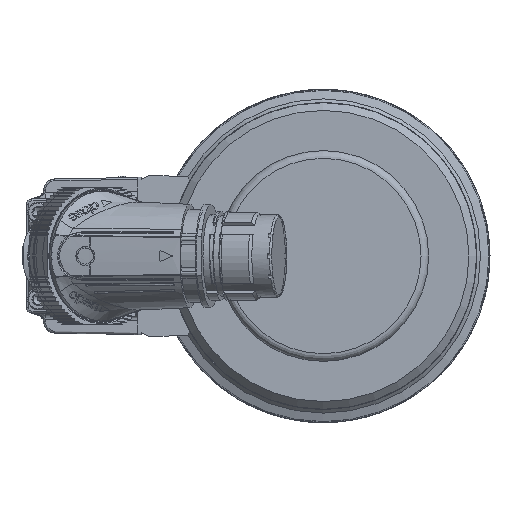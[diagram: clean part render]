
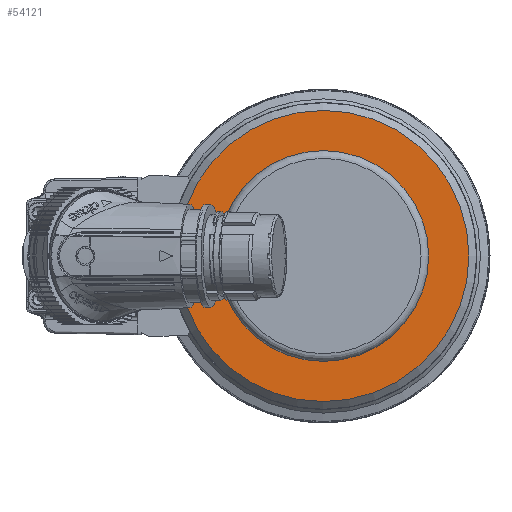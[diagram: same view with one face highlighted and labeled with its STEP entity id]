
A CAD part, left-side view. The second image highlights one B-rep face of the part: STEP entity #54121.
In plain terms, the highlighted planar face has unit normal (-1, 0, 0).
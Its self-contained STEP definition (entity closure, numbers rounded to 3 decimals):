
#3958 = AXIS2_PLACEMENT_3D ( 'NONE', #84605, #35686, #92772 ) ;
#8106 = FACE_OUTER_BOUND ( 'NONE', #93574, .T. ) ;
#8427 = PLANE ( 'NONE',  #35901 ) ;
#16367 = CARTESIAN_POINT ( 'NONE',  ( -392.7, 27.5, 0. ) ) ;
#16715 = DIRECTION ( 'NONE',  ( -1., 0., 0. ) ) ;
#18215 = DIRECTION ( 'NONE',  ( 1., 0., 0. ) ) ;
#35686 = DIRECTION ( 'NONE',  ( -1., 0., 0. ) ) ;
#35901 = AXIS2_PLACEMENT_3D ( 'NONE', #16367, #16715, #73495 ) ;
#42590 = CIRCLE ( 'NONE', #95311, 27.5 ) ;
#48763 = FACE_BOUND ( 'NONE', #86552, .T. ) ;
#54121 = ADVANCED_FACE ( 'NONE', ( #8106, #48763 ), #8427, .T. ) ;
#59415 = CARTESIAN_POINT ( 'NONE',  ( -392.7, 0., 37.999 ) ) ;
#66827 = CARTESIAN_POINT ( 'NONE',  ( -392.7, 0., 0. ) ) ;
#71927 = CARTESIAN_POINT ( 'NONE',  ( -392.7, 0., -27.5 ) ) ;
#73495 = DIRECTION ( 'NONE',  ( 0., 0., 1. ) ) ;
#74945 = DIRECTION ( 'NONE',  ( 0., 0., -1. ) ) ;
#79260 = EDGE_CURVE ( 'NONE', #93919, #93919, #42590, .T. ) ;
#80056 = CIRCLE ( 'NONE', #3958, 37.999 ) ;
#84605 = CARTESIAN_POINT ( 'NONE',  ( -392.7, 0., 0. ) ) ;
#86552 = EDGE_LOOP ( 'NONE', ( #97405 ) ) ;
#92772 = DIRECTION ( 'NONE',  ( 0., 0., 1. ) ) ;
#93574 = EDGE_LOOP ( 'NONE', ( #96701 ) ) ;
#93919 = VERTEX_POINT ( 'NONE', #71927 ) ;
#95311 = AXIS2_PLACEMENT_3D ( 'NONE', #66827, #18215, #74945 ) ;
#96431 = VERTEX_POINT ( 'NONE', #59415 ) ;
#96701 = ORIENTED_EDGE ( 'NONE', *, *, #99618, .T. ) ;
#97405 = ORIENTED_EDGE ( 'NONE', *, *, #79260, .T. ) ;
#99618 = EDGE_CURVE ( 'NONE', #96431, #96431, #80056, .T. ) ;
